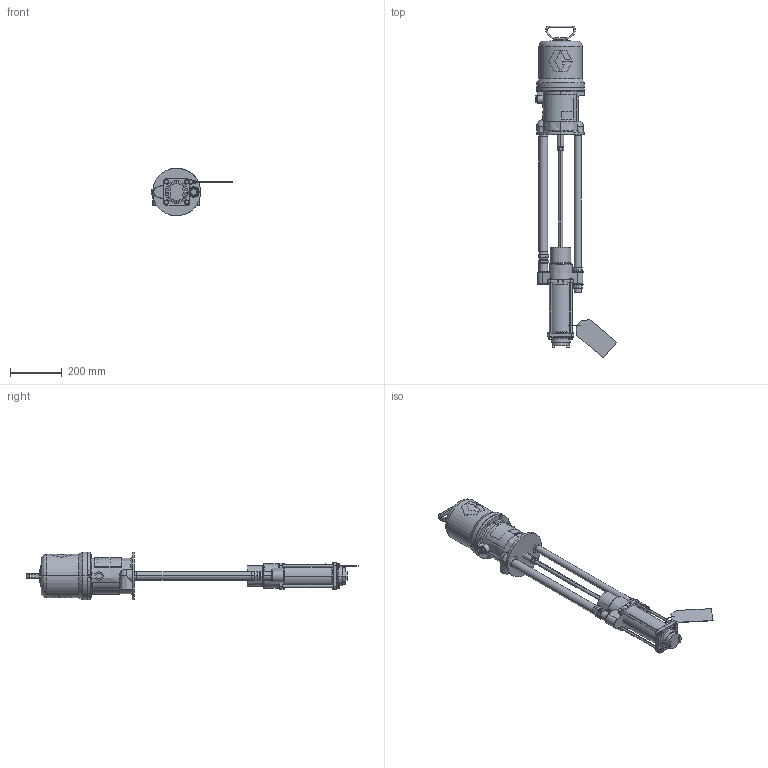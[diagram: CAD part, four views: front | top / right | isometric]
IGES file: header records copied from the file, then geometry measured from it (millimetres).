
Start section:  PTC IGES file: 223183-en-w.igs
Global section: file name: 223183-en-w.igs; native system: Creo Parametric by PTC Inc.; preprocessor: 2021072; author: qusrh3; organization: Unknown; date: 20221027.130206; units: inch
Bounding box: 314.65 x 1280.12 x 184.15 mm (x, y, z)
Surface area: 733026.3 mm2 (no closed solid volume)
Topology: 0 solids, 0 shells, 470 faces, 2313 edges, 2310 vertices
Faces by surface type: revolution 305, bspline 165
